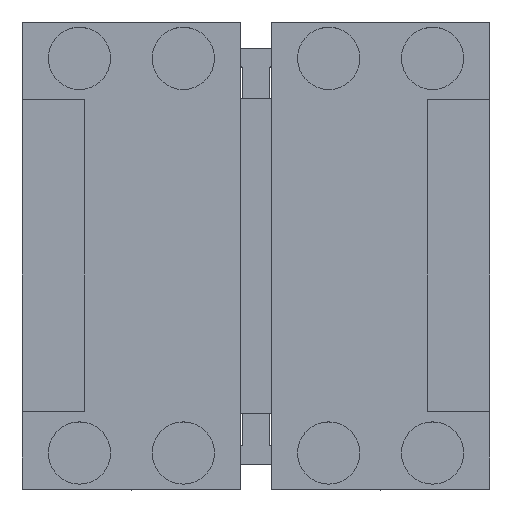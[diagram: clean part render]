
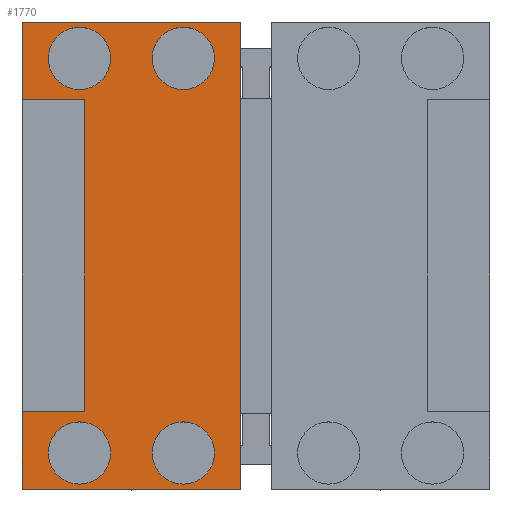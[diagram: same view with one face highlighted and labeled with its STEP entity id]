
A CAD part, top view. The second image highlights one B-rep face of the part: STEP entity #1770.
In plain terms, the highlighted planar face has unit normal (0, 0, 1).
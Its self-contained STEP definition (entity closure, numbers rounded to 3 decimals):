
#17 = DIRECTION ( 'NONE',  ( 0., 0., 1. ) ) ;
#77 = DIRECTION ( 'NONE',  ( 1., 0., 0. ) ) ;
#91 = VECTOR ( 'NONE', #228, 1000. ) ;
#188 = DIRECTION ( 'NONE',  ( 0., 0., -1. ) ) ;
#189 = EDGE_CURVE ( 'NONE', #2621, #691, #2183, .T. ) ;
#228 = DIRECTION ( 'NONE',  ( 0., 1., 0. ) ) ;
#276 = ORIENTED_EDGE ( 'NONE', *, *, #5085, .F. ) ;
#319 = LINE ( 'NONE', #4826, #1670 ) ;
#349 = DIRECTION ( 'NONE',  ( 1., 0., 0. ) ) ;
#359 = AXIS2_PLACEMENT_3D ( 'NONE', #1589, #5048, #4550 ) ;
#373 = VERTEX_POINT ( 'NONE', #396 ) ;
#396 = CARTESIAN_POINT ( 'NONE',  ( -1.5, -22.5, 76. ) ) ;
#418 = CARTESIAN_POINT ( 'NONE',  ( -17., -19., 76. ) ) ;
#682 = CARTESIAN_POINT ( 'NONE',  ( -16.5, -15., 76. ) ) ;
#691 = VERTEX_POINT ( 'NONE', #4052 ) ;
#701 = ORIENTED_EDGE ( 'NONE', *, *, #4001, .F. ) ;
#703 = AXIS2_PLACEMENT_3D ( 'NONE', #418, #17, #3424 ) ;
#715 = DIRECTION ( 'NONE',  ( 0., 0., 1. ) ) ;
#786 = VECTOR ( 'NONE', #3094, 1000. ) ;
#787 = DIRECTION ( 'NONE',  ( 0., 1., 0. ) ) ;
#795 = AXIS2_PLACEMENT_3D ( 'NONE', #2753, #6295, #5829 ) ;
#897 = ORIENTED_EDGE ( 'NONE', *, *, #4476, .F. ) ;
#934 = EDGE_LOOP ( 'NONE', ( #1559, #276 ) ) ;
#972 = CARTESIAN_POINT ( 'NONE',  ( -1.5, -22.5, 76. ) ) ;
#1051 = CARTESIAN_POINT ( 'NONE',  ( -20., -19., 76. ) ) ;
#1066 = VERTEX_POINT ( 'NONE', #2778 ) ;
#1119 = CIRCLE ( 'NONE', #3134, 3. ) ;
#1229 = DIRECTION ( 'NONE',  ( -1., 0., 0. ) ) ;
#1242 = CARTESIAN_POINT ( 'NONE',  ( -7., -19., 76. ) ) ;
#1315 = EDGE_CURVE ( 'NONE', #1918, #1066, #2136, .T. ) ;
#1318 = VECTOR ( 'NONE', #2354, 1000. ) ;
#1412 = LINE ( 'NONE', #5318, #2550 ) ;
#1559 = ORIENTED_EDGE ( 'NONE', *, *, #3877, .F. ) ;
#1567 = ORIENTED_EDGE ( 'NONE', *, *, #1315, .T. ) ;
#1580 = CARTESIAN_POINT ( 'NONE',  ( -1.5, 22.5, 76. ) ) ;
#1589 = CARTESIAN_POINT ( 'NONE',  ( -7., 19., 76. ) ) ;
#1596 = VERTEX_POINT ( 'NONE', #3470 ) ;
#1624 = CARTESIAN_POINT ( 'NONE',  ( -14., 19., 76. ) ) ;
#1670 = VECTOR ( 'NONE', #349, 1000. ) ;
#1739 = CIRCLE ( 'NONE', #5452, 3. ) ;
#1752 = VERTEX_POINT ( 'NONE', #2492 ) ;
#1762 = EDGE_CURVE ( 'NONE', #1596, #1066, #3546, .T. ) ;
#1770 = ADVANCED_FACE ( 'NONE', ( #6495, #3983, #6001, #5216, #4721 ), #4687, .F. ) ;
#1798 = AXIS2_PLACEMENT_3D ( 'NONE', #1242, #715, #2232 ) ;
#1918 = VERTEX_POINT ( 'NONE', #4329 ) ;
#1944 = VECTOR ( 'NONE', #5690, 1000. ) ;
#2073 = CARTESIAN_POINT ( 'NONE',  ( -1.5, -22.5, 76. ) ) ;
#2104 = DIRECTION ( 'NONE',  ( 0., 1., 0. ) ) ;
#2136 = LINE ( 'NONE', #1580, #1944 ) ;
#2183 = LINE ( 'NONE', #3250, #91 ) ;
#2232 = DIRECTION ( 'NONE',  ( -1., 0., 0. ) ) ;
#2330 = EDGE_CURVE ( 'NONE', #5476, #2673, #1739, .T. ) ;
#2344 = EDGE_LOOP ( 'NONE', ( #5842, #2858 ) ) ;
#2354 = DIRECTION ( 'NONE',  ( -1., 0., 0. ) ) ;
#2421 = ORIENTED_EDGE ( 'NONE', *, *, #6134, .F. ) ;
#2478 = DIRECTION ( 'NONE',  ( -1., 0., 0. ) ) ;
#2492 = CARTESIAN_POINT ( 'NONE',  ( -10., 19., 76. ) ) ;
#2550 = VECTOR ( 'NONE', #787, 1000. ) ;
#2576 = AXIS2_PLACEMENT_3D ( 'NONE', #2928, #3915, #3986 ) ;
#2604 = DIRECTION ( 'NONE',  ( 0., 0., 1. ) ) ;
#2621 = VERTEX_POINT ( 'NONE', #3518 ) ;
#2632 = CARTESIAN_POINT ( 'NONE',  ( -17., 19., 76. ) ) ;
#2652 = EDGE_CURVE ( 'NONE', #1596, #4126, #4553, .T. ) ;
#2673 = VERTEX_POINT ( 'NONE', #1624 ) ;
#2738 = ORIENTED_EDGE ( 'NONE', *, *, #4197, .T. ) ;
#2753 = CARTESIAN_POINT ( 'NONE',  ( -17., -19., 76. ) ) ;
#2778 = CARTESIAN_POINT ( 'NONE',  ( -22.5, 22.5, 76. ) ) ;
#2850 = VERTEX_POINT ( 'NONE', #4230 ) ;
#2858 = ORIENTED_EDGE ( 'NONE', *, *, #6450, .F. ) ;
#2928 = CARTESIAN_POINT ( 'NONE',  ( -7., -19., 76. ) ) ;
#2987 = EDGE_CURVE ( 'NONE', #691, #4414, #319, .T. ) ;
#3032 = CARTESIAN_POINT ( 'NONE',  ( -22.5, -22.5, 76. ) ) ;
#3094 = DIRECTION ( 'NONE',  ( 0., 1., 0. ) ) ;
#3095 = ORIENTED_EDGE ( 'NONE', *, *, #189, .F. ) ;
#3134 = AXIS2_PLACEMENT_3D ( 'NONE', #3632, #6022, #2478 ) ;
#3142 = VERTEX_POINT ( 'NONE', #1051 ) ;
#3213 = CARTESIAN_POINT ( 'NONE',  ( -4., 19., 76. ) ) ;
#3220 = CIRCLE ( 'NONE', #359, 3. ) ;
#3250 = CARTESIAN_POINT ( 'NONE',  ( -22.5, -22.5, 76. ) ) ;
#3390 = CIRCLE ( 'NONE', #1798, 3. ) ;
#3415 = EDGE_LOOP ( 'NONE', ( #897, #5379 ) ) ;
#3424 = DIRECTION ( 'NONE',  ( -1., 0., 0. ) ) ;
#3470 = CARTESIAN_POINT ( 'NONE',  ( -22.5, 15., 76. ) ) ;
#3518 = CARTESIAN_POINT ( 'NONE',  ( -22.5, -22.5, 76. ) ) ;
#3546 = LINE ( 'NONE', #3032, #786 ) ;
#3552 = EDGE_CURVE ( 'NONE', #3142, #3695, #5358, .T. ) ;
#3632 = CARTESIAN_POINT ( 'NONE',  ( -7., 19., 76. ) ) ;
#3683 = CARTESIAN_POINT ( 'NONE',  ( -22.5, 15., 76. ) ) ;
#3692 = VERTEX_POINT ( 'NONE', #3213 ) ;
#3695 = VERTEX_POINT ( 'NONE', #4793 ) ;
#3806 = CARTESIAN_POINT ( 'NONE',  ( -17., 19., 76. ) ) ;
#3877 = EDGE_CURVE ( 'NONE', #1752, #3692, #1119, .T. ) ;
#3915 = DIRECTION ( 'NONE',  ( 0., 0., 1. ) ) ;
#3983 = FACE_BOUND ( 'NONE', #3415, .T. ) ;
#3986 = DIRECTION ( 'NONE',  ( -1., 0., 0. ) ) ;
#4001 = EDGE_CURVE ( 'NONE', #4414, #4126, #5686, .T. ) ;
#4052 = CARTESIAN_POINT ( 'NONE',  ( -22.5, -15., 76. ) ) ;
#4126 = VERTEX_POINT ( 'NONE', #6341 ) ;
#4197 = EDGE_CURVE ( 'NONE', #373, #1918, #1412, .T. ) ;
#4215 = DIRECTION ( 'NONE',  ( 0., 0., 1. ) ) ;
#4230 = CARTESIAN_POINT ( 'NONE',  ( -4., -19., 76. ) ) ;
#4245 = ORIENTED_EDGE ( 'NONE', *, *, #5137, .F. ) ;
#4329 = CARTESIAN_POINT ( 'NONE',  ( -1.5, 22.5, 76. ) ) ;
#4414 = VERTEX_POINT ( 'NONE', #682 ) ;
#4415 = EDGE_LOOP ( 'NONE', ( #5192, #4245 ) ) ;
#4476 = EDGE_CURVE ( 'NONE', #4906, #2850, #3390, .T. ) ;
#4550 = DIRECTION ( 'NONE',  ( -1., 0., 0. ) ) ;
#4553 = LINE ( 'NONE', #3683, #4689 ) ;
#4615 = ORIENTED_EDGE ( 'NONE', *, *, #1762, .F. ) ;
#4687 = PLANE ( 'NONE',  #5962 ) ;
#4689 = VECTOR ( 'NONE', #77, 1000. ) ;
#4692 = CIRCLE ( 'NONE', #5124, 3. ) ;
#4721 = FACE_BOUND ( 'NONE', #2344, .T. ) ;
#4778 = ORIENTED_EDGE ( 'NONE', *, *, #2987, .F. ) ;
#4788 = CARTESIAN_POINT ( 'NONE',  ( -16.5, -15., 76. ) ) ;
#4793 = CARTESIAN_POINT ( 'NONE',  ( -14., -19., 76. ) ) ;
#4826 = CARTESIAN_POINT ( 'NONE',  ( -22.5, -15., 76. ) ) ;
#4888 = EDGE_CURVE ( 'NONE', #2850, #4906, #4899, .T. ) ;
#4899 = CIRCLE ( 'NONE', #2576, 3. ) ;
#4906 = VERTEX_POINT ( 'NONE', #5870 ) ;
#4939 = ORIENTED_EDGE ( 'NONE', *, *, #2652, .T. ) ;
#4998 = CARTESIAN_POINT ( 'NONE',  ( -20., 19., 76. ) ) ;
#5032 = VECTOR ( 'NONE', #6279, 1000. ) ;
#5048 = DIRECTION ( 'NONE',  ( 0., 0., 1. ) ) ;
#5085 = EDGE_CURVE ( 'NONE', #3692, #1752, #3220, .T. ) ;
#5124 = AXIS2_PLACEMENT_3D ( 'NONE', #3806, #4215, #1229 ) ;
#5128 = CIRCLE ( 'NONE', #795, 3. ) ;
#5137 = EDGE_CURVE ( 'NONE', #2673, #5476, #4692, .T. ) ;
#5192 = ORIENTED_EDGE ( 'NONE', *, *, #2330, .F. ) ;
#5216 = FACE_BOUND ( 'NONE', #934, .T. ) ;
#5318 = CARTESIAN_POINT ( 'NONE',  ( -1.5, -22.5, 76. ) ) ;
#5351 = DIRECTION ( 'NONE',  ( -1., 0., 0. ) ) ;
#5358 = CIRCLE ( 'NONE', #703, 3. ) ;
#5379 = ORIENTED_EDGE ( 'NONE', *, *, #4888, .F. ) ;
#5452 = AXIS2_PLACEMENT_3D ( 'NONE', #2632, #2604, #5351 ) ;
#5476 = VERTEX_POINT ( 'NONE', #4998 ) ;
#5530 = EDGE_LOOP ( 'NONE', ( #4615, #4939, #701, #4778, #3095, #2421, #2738, #1567 ) ) ;
#5686 = LINE ( 'NONE', #4788, #5032 ) ;
#5690 = DIRECTION ( 'NONE',  ( -1., 0., 0. ) ) ;
#5829 = DIRECTION ( 'NONE',  ( -1., 0., 0. ) ) ;
#5842 = ORIENTED_EDGE ( 'NONE', *, *, #3552, .F. ) ;
#5870 = CARTESIAN_POINT ( 'NONE',  ( -10., -19., 76. ) ) ;
#5906 = LINE ( 'NONE', #972, #1318 ) ;
#5962 = AXIS2_PLACEMENT_3D ( 'NONE', #2073, #188, #2104 ) ;
#6001 = FACE_BOUND ( 'NONE', #4415, .T. ) ;
#6022 = DIRECTION ( 'NONE',  ( 0., 0., 1. ) ) ;
#6134 = EDGE_CURVE ( 'NONE', #373, #2621, #5906, .T. ) ;
#6279 = DIRECTION ( 'NONE',  ( 0., 1., 0. ) ) ;
#6295 = DIRECTION ( 'NONE',  ( 0., 0., 1. ) ) ;
#6341 = CARTESIAN_POINT ( 'NONE',  ( -16.5, 15., 76. ) ) ;
#6450 = EDGE_CURVE ( 'NONE', #3695, #3142, #5128, .T. ) ;
#6495 = FACE_OUTER_BOUND ( 'NONE', #5530, .T. ) ;
